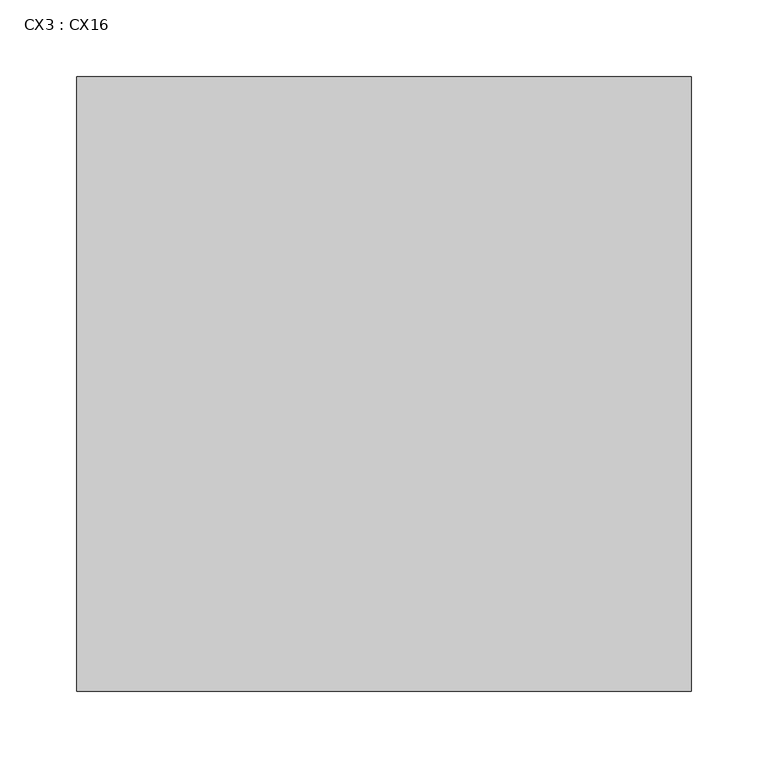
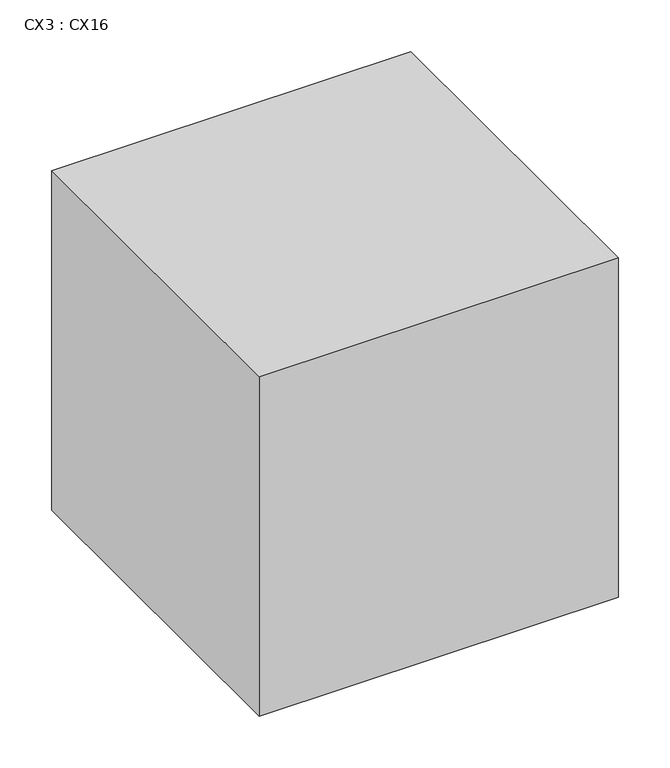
"""IFC4 building model written with IfcOpenShell, lengths in millimetres: proxy geometry, CX3 : CX16."""

from ifc_helpers import new_model, si_unit, frame, origin, place, context, project, spatial, polyline, outline, extrude, source, transform, mapped, element, save


def cx3_cx16_01211123(model_context):
    return source(origin(), model_context, "Body", "SweptSolid", [
        extrude(outline(polyline([(5861.0646511, 17649.1121745), (5861.0646511, 17249.1121745), (5461.0646511, 17249.1121745), (5461.0646511, 17649.1121745), (5861.0646511, 17649.1121745)])), frame((0.0, 0.0, 1130.0), z_axis=(0.0, 0.0, 1.0), x_axis=(1.0, 0.0, 0.0)), (0.0, 0.0, 1.0), 400.0),
    ])


if __name__ == "__main__":
    model = new_model("IFC4")
    model_context = context("Model", 3, world=origin())
    ifc_project = project(units=[si_unit("LENGTHUNIT", "METRE", prefix="MILLI")], contexts=[model_context])
    site = spatial("IfcSite", under=ifc_project)
    building = spatial("IfcBuilding", under=site)
    placement = place(None, origin())
    cx3_cx16_shape = cx3_cx16_01211123(model_context)
    element("IfcBuildingElementProxy", 1, Name="CX3 : CX16", ObjectType="CX3 : CX16", at=placement, inside=building, context=model_context, shape_type="MappedRepresentation", body=[
        mapped(cx3_cx16_shape, transform((0.0, 0.0, 0.0), x_axis=(1.0, 0.0, 0.0), y_axis=(0.0, 1.0, 0.0), z_axis=(0.0, 0.0, 1.0))),
    ])
    save(model, "model.ifc")
